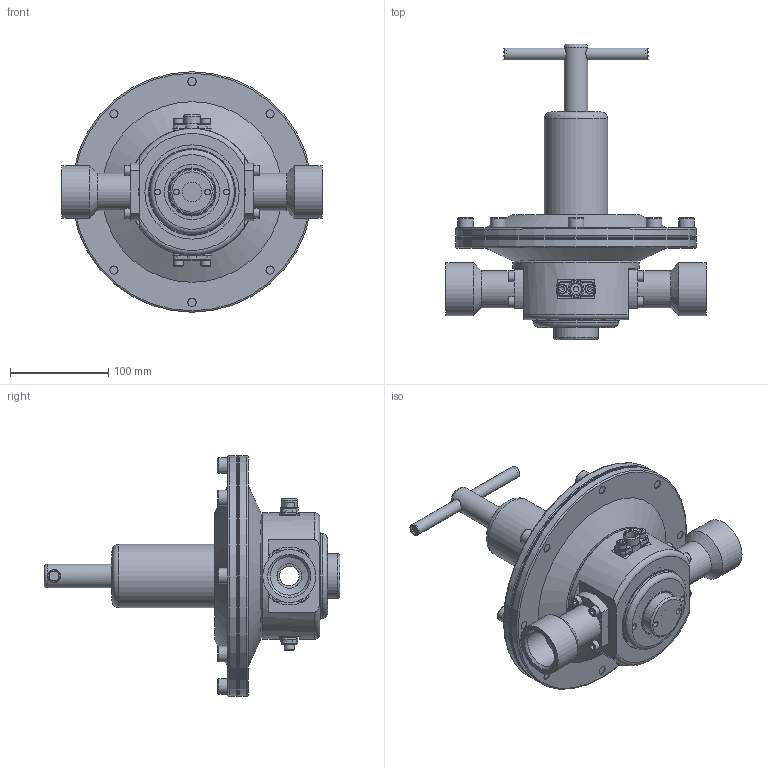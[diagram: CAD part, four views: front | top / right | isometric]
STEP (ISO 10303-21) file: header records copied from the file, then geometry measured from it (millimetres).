
FILE_DESCRIPTION(/* description */ ('Regolatore 310R3'),/* implementation_level */ '2;1');
FILE_NAME(/* name */ 'I:\TEC\Lavoro\ARCHIVIO DISEGNI INVENTOR\WorkSpace\Schizzi\Francesco\1 - AIRCOM MERDA\STEP PER aircomerda\310R3# 114 - 1.2bar.stp',/* time_stamp */ '2023-04-19T07:56:24+02:00',/* author */ ('FrancescoLazio'),/* organization */ (''),/* preprocessor_version */ 'ST-DEVELOPER v19',/* originating_system */ 'Autodesk Inventor 2023',/* authorisation */ '');
FILE_SCHEMA (('AUTOMOTIVE_DESIGN { 1 0 10303 214 3 1 1 }'));
Length unit declared in the file: millimetre
Products named in the file (26): C81021; P20697; OR 07021; P37129; P37131; P34186; P23081; P23078; P64035; P64036; P43162; P43162_1; P43162_2; P43162_3; P43162_4; P43162_5; 0DC10612; P37124; 0DC10410; OR 07075; C43013; P43064; 0DE07B; P30012; P31004; P34199
Assembly tree (46 placements, depth 3):
  C81021
    P20697
    OR 07021  x2
    0DC10410  x12
    P37129
    P37131
    P34186
    P23081
    P23078
    P64035
    P64036
    P43162
    P43162_1
    P43162_2
    P43162_3
    P43162_4
    P43162_5
    0DC10612  x8
    P37124  x2
    OR 07075  x2
    C43013
      P43064
      0DE07B
      P30012
    P31004
    P34199
Bounding box: 265 x 301.2 x 245 mm (x, y, z)
Volume: 1123169.2 mm3; surface area: 472469.4 mm2
Topology: 45 solids, 45 shells, 768 faces, 1855 edges, 1204 vertices
Faces by surface type: plane 283, cylinder 219, cone 120, torus 95, bspline 50, sphere 1
Full cylindrical faces by diameter (mm): 4.917 x12, 5.6 x1, 6 x16, 6.5 x14, 7.7 x2, 8.376 x14, 8.566 x1, 10 x28, 10.5 x24, 11.2 x2, 11.445 x1, 12 x1, 12.2 x1, 16 x8, 16.5 x1, 20 x1, 22 x1, 24 x2, 25 x3, 34.6 x2, 38 x2, 38.5 x2, 38.952 x2, 45 x1, 48.5 x1, 54 x2, 60 x1, 60.63 x1, 62.5 x1, 64 x1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
Entity records: 18388 total; most frequent: CARTESIAN_POINT 5757, DIRECTION 2559, ORIENTED_EDGE 2260, EDGE_CURVE 1130, AXIS2_PLACEMENT_3D 1106, VERTEX_POINT 735, EDGE_LOOP 629, CIRCLE 580
